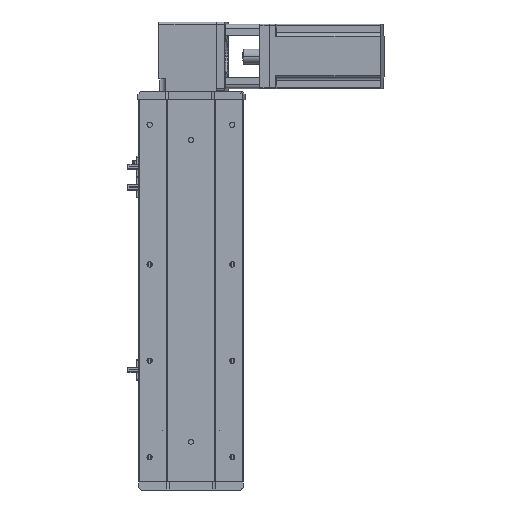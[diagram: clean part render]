
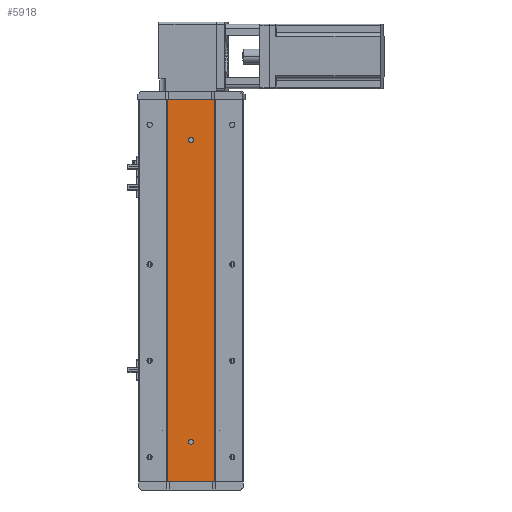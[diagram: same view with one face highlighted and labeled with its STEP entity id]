
A CAD part, left-side view. The second image highlights one B-rep face of the part: STEP entity #5918.
In plain terms, the highlighted planar face has unit normal (-1, 0, 0).
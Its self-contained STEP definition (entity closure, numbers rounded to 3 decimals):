
#889 = DIRECTION ( 'NONE',  ( 0., -1., 0. ) ) ;
#2170 = VECTOR ( 'NONE', #889, 1000. ) ;
#2430 = EDGE_LOOP ( 'NONE', ( #38597, #36123, #21888, #4209 ) ) ;
#2805 = EDGE_CURVE ( 'NONE', #29785, #21122, #38875, .T. ) ;
#3086 = DIRECTION ( 'NONE',  ( 0., 0., 1. ) ) ;
#3207 = VECTOR ( 'NONE', #13336, 1000. ) ;
#3826 = CARTESIAN_POINT ( 'NONE',  ( -24.994, 0., 423. ) ) ;
#4209 = ORIENTED_EDGE ( 'NONE', *, *, #41280, .T. ) ;
#4628 = CIRCLE ( 'NONE', #9801, 3. ) ;
#5468 = ORIENTED_EDGE ( 'NONE', *, *, #42489, .F. ) ;
#5627 = CIRCLE ( 'NONE', #29195, 3. ) ;
#5918 = ADVANCED_FACE ( 'NONE', ( #34840, #42747, #8062 ), #21218, .F. ) ;
#7534 = CARTESIAN_POINT ( 'NONE',  ( -24.994, 29.785, 0. ) ) ;
#7980 = DIRECTION ( 'NONE',  ( 0., 0., -1. ) ) ;
#8062 = FACE_OUTER_BOUND ( 'NONE', #2430, .T. ) ;
#8887 = LINE ( 'NONE', #34831, #16767 ) ;
#9298 = CIRCLE ( 'NONE', #10022, 3. ) ;
#9801 = AXIS2_PLACEMENT_3D ( 'NONE', #15839, #39359, #19222 ) ;
#10022 = AXIS2_PLACEMENT_3D ( 'NONE', #43256, #23152, #3086 ) ;
#10030 = VECTOR ( 'NONE', #16799, 1000. ) ;
#10045 = CARTESIAN_POINT ( 'NONE',  ( -24.994, 0., 50. ) ) ;
#10722 = AXIS2_PLACEMENT_3D ( 'NONE', #10045, #33490, #13409 ) ;
#12838 = ORIENTED_EDGE ( 'NONE', *, *, #33303, .F. ) ;
#13129 = ORIENTED_EDGE ( 'NONE', *, *, #36503, .F. ) ;
#13336 = DIRECTION ( 'NONE',  ( 0., -1., 0. ) ) ;
#13409 = DIRECTION ( 'NONE',  ( 0., 0., 1. ) ) ;
#14125 = EDGE_CURVE ( 'NONE', #21122, #31390, #27880, .T. ) ;
#15269 = VERTEX_POINT ( 'NONE', #38272 ) ;
#15544 = CARTESIAN_POINT ( 'NONE',  ( -24.994, 0., 47. ) ) ;
#15839 = CARTESIAN_POINT ( 'NONE',  ( -24.994, 0., 426. ) ) ;
#16767 = VECTOR ( 'NONE', #7980, 1000. ) ;
#16799 = DIRECTION ( 'NONE',  ( 0., 0., -1. ) ) ;
#17569 = CARTESIAN_POINT ( 'NONE',  ( -24.994, 0., 50. ) ) ;
#17953 = CARTESIAN_POINT ( 'NONE',  ( -24.994, 29.785, 476. ) ) ;
#18139 = CARTESIAN_POINT ( 'NONE',  ( -24.994, 0., 429. ) ) ;
#18379 = VERTEX_POINT ( 'NONE', #3826 ) ;
#19222 = DIRECTION ( 'NONE',  ( 0., 0., 1. ) ) ;
#19636 = AXIS2_PLACEMENT_3D ( 'NONE', #17953, #41486, #21357 ) ;
#20974 = DIRECTION ( 'NONE',  ( 0., 0., 1. ) ) ;
#21122 = VERTEX_POINT ( 'NONE', #30176 ) ;
#21218 = PLANE ( 'NONE',  #19636 ) ;
#21357 = DIRECTION ( 'NONE',  ( 0., 0., -1. ) ) ;
#21888 = ORIENTED_EDGE ( 'NONE', *, *, #2805, .F. ) ;
#23152 = DIRECTION ( 'NONE',  ( -1., 0., 0. ) ) ;
#24562 = VERTEX_POINT ( 'NONE', #15544 ) ;
#27880 = LINE ( 'NONE', #36959, #10030 ) ;
#29195 = AXIS2_PLACEMENT_3D ( 'NONE', #17569, #41085, #20974 ) ;
#29785 = VERTEX_POINT ( 'NONE', #36043 ) ;
#30176 = CARTESIAN_POINT ( 'NONE',  ( -24.994, -29.785, 476. ) ) ;
#31390 = VERTEX_POINT ( 'NONE', #32242 ) ;
#32242 = CARTESIAN_POINT ( 'NONE',  ( -24.994, -29.785, 0. ) ) ;
#33303 = EDGE_CURVE ( 'NONE', #15269, #24562, #37996, .T. ) ;
#33409 = CARTESIAN_POINT ( 'NONE',  ( -24.994, 29.785, 476. ) ) ;
#33490 = DIRECTION ( 'NONE',  ( -1., 0., 0. ) ) ;
#34506 = ORIENTED_EDGE ( 'NONE', *, *, #42174, .F. ) ;
#34701 = CARTESIAN_POINT ( 'NONE',  ( -24.994, 29.785, 0. ) ) ;
#34831 = CARTESIAN_POINT ( 'NONE',  ( -24.994, 29.785, 476. ) ) ;
#34840 = FACE_BOUND ( 'NONE', #41276, .T. ) ;
#36043 = CARTESIAN_POINT ( 'NONE',  ( -24.994, 29.785, 476. ) ) ;
#36123 = ORIENTED_EDGE ( 'NONE', *, *, #14125, .F. ) ;
#36503 = EDGE_CURVE ( 'NONE', #18379, #42620, #9298, .T. ) ;
#36959 = CARTESIAN_POINT ( 'NONE',  ( -24.994, -29.785, 476. ) ) ;
#37823 = LINE ( 'NONE', #7534, #2170 ) ;
#37996 = CIRCLE ( 'NONE', #10722, 3. ) ;
#38272 = CARTESIAN_POINT ( 'NONE',  ( -24.994, 0., 53. ) ) ;
#38328 = VERTEX_POINT ( 'NONE', #34701 ) ;
#38597 = ORIENTED_EDGE ( 'NONE', *, *, #41187, .T. ) ;
#38875 = LINE ( 'NONE', #33409, #3207 ) ;
#39359 = DIRECTION ( 'NONE',  ( -1., 0., 0. ) ) ;
#40097 = EDGE_LOOP ( 'NONE', ( #12838, #5468 ) ) ;
#41085 = DIRECTION ( 'NONE',  ( -1., 0., 0. ) ) ;
#41187 = EDGE_CURVE ( 'NONE', #38328, #31390, #37823, .T. ) ;
#41276 = EDGE_LOOP ( 'NONE', ( #34506, #13129 ) ) ;
#41280 = EDGE_CURVE ( 'NONE', #29785, #38328, #8887, .T. ) ;
#41486 = DIRECTION ( 'NONE',  ( 1., 0., 0. ) ) ;
#42174 = EDGE_CURVE ( 'NONE', #42620, #18379, #4628, .T. ) ;
#42489 = EDGE_CURVE ( 'NONE', #24562, #15269, #5627, .T. ) ;
#42620 = VERTEX_POINT ( 'NONE', #18139 ) ;
#42747 = FACE_BOUND ( 'NONE', #40097, .T. ) ;
#43256 = CARTESIAN_POINT ( 'NONE',  ( -24.994, 0., 426. ) ) ;
